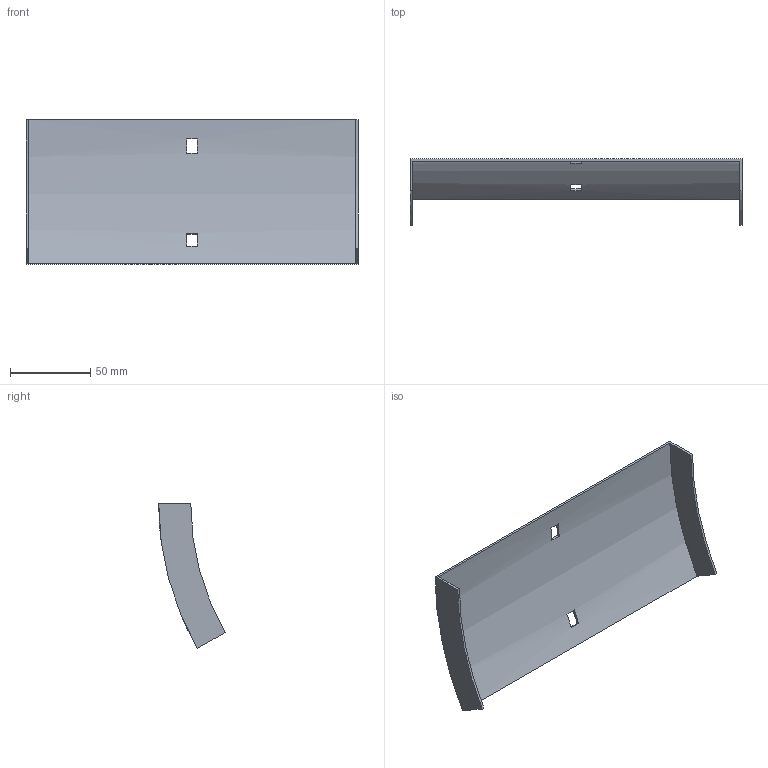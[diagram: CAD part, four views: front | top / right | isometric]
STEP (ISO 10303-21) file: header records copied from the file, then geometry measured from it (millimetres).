
FILE_DESCRIPTION (( 'STEP AP214' ), '1' );
FILE_NAME ('35N1C200.step', '2025-02-21T09:13:00', ( '' ), ( '' ), 'SwSTEP 2.0', 'SolidWorks 2023', '' );
FILE_SCHEMA (( 'AUTOMOTIVE_DESIGN' ));
Length unit declared in the file: millimetre
Products named in the file (1): 35N1C200
Bounding box: 207 x 41.5 x 90.25 mm (x, y, z)
Volume: 33979.9 mm3; surface area: 46385.3 mm2
Topology: 1 solids, 1 shells, 18 faces, 48 edges, 32 vertices
Faces by surface type: plane 14, cylinder 4
Entity records: 599 total; most frequent: DIRECTION 102, CARTESIAN_POINT 99, ORIENTED_EDGE 96, EDGE_CURVE 48, AXIS2_PLACEMENT_3D 35, VECTOR 32, VERTEX_POINT 32, LINE 32
